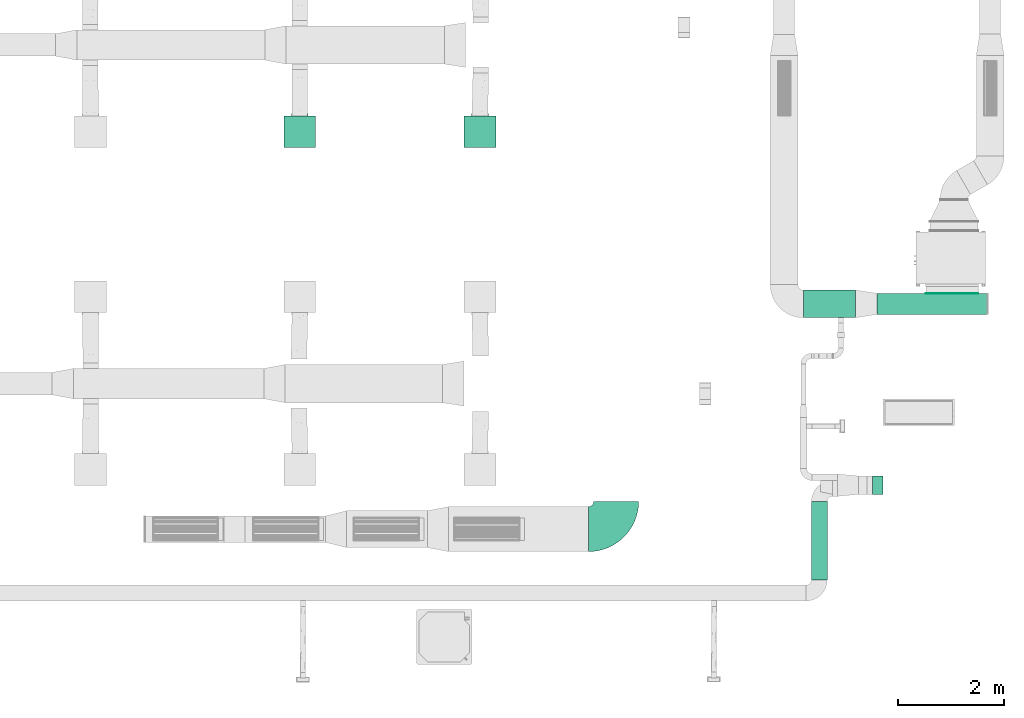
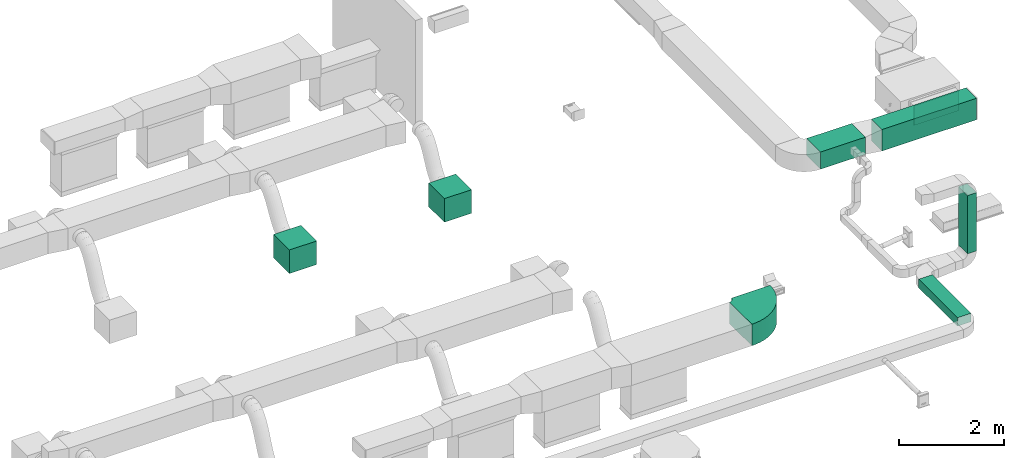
# One storey, part 7 of 60: 4 flow segments, 2 flow fittings, 2 flow terminals.
"""IFC2X3 building model written with IfcOpenShell, lengths in millimetres."""

import ifcopenshell
import ifcopenshell.guid

model = None  # the IFC model being written
_history = None  # IfcOwnerHistory: only IFC2X3 demands one
_inside = {}  # id of a spatial element -> (the spatial element, [elements in it])
_under = {}  # id of a project, library or spatial element -> (it, [spatial elements below it])
_declared = {}  # id of a project -> (the project, [libraries it declares])
_typed = {}  # id of a type object -> (the type object, [elements of that type])
_made_of = {}  # id of a material, layer set ... -> (it, [elements and type objects made of it])


def new_model(schema):
    """Start an empty IFC model of exactly this schema.

    Asked for "IFC4X3", IfcOpenShell would pick the latest addendum, in which some entities
    have other attributes; the version numbers below select the first issue.
    IFC2X3 requires an IfcOwnerHistory on every rooted entity: one is made here for all.
    """
    global model, _history
    if schema == "IFC4X3":
        model = ifcopenshell.file(schema_version=(4, 3, 0, 0))
    else:
        model = ifcopenshell.file(schema=schema)
    _inside.clear()
    _under.clear()
    _declared.clear()
    _typed.clear()
    _made_of.clear()
    _history = None
    if model.schema == "IFC2X3":
        org = make("IfcOrganization", Name="unknown")
        user = make(
            "IfcPersonAndOrganization",
            ThePerson=make("IfcPerson", FamilyName="unknown"),
            TheOrganization=org,
        )
        app = make(
            "IfcApplication",
            ApplicationDeveloper=org,
            Version="unknown",
            ApplicationFullName="unknown",
            ApplicationIdentifier="unknown",
        )
        _history = make(
            "IfcOwnerHistory",
            OwningUser=user,
            OwningApplication=app,
            ChangeAction="ADDED",
            CreationDate=0,
        )
    return model


def make(cls, **values):
    """One entity of the class cls with the attributes given. An attribute that is None is left unset."""
    return model.create_entity(
        cls, **{name: value for name, value in values.items() if value is not None}
    )


def entity(cls, *values):
    """Any entity or typed value of the class cls, its attributes in the order of the schema. None: left unset."""
    e = model.create_entity(cls)
    for i, value in enumerate(values):
        if value is not None:
            e[i] = value
    return e


def rooted(cls, **values):
    """An entity with a GlobalId (a new one), such as an element, a storey or a relation."""
    return make(cls, GlobalId=ifcopenshell.guid.new(), OwnerHistory=_history, **values)


def si_unit(unit_type, name, prefix=None):
    """IfcSIUnit, for example si_unit("LENGTHUNIT", "METRE", prefix="MILLI")."""
    return make("IfcSIUnit", UnitType=unit_type, Prefix=prefix, Name=name)


def converted_unit(unit_type, name, factor, base, dimensions=None, offset=None):
    """IfcConversionBasedUnit, such as the inch: factor (a typed value) times the base unit."""
    return make(
        "IfcConversionBasedUnit"
        if offset is None
        else "IfcConversionBasedUnitWithOffset",
        ConversionOffset=offset,
        Dimensions=None
        if dimensions is None
        else entity("IfcDimensionalExponents", *dimensions),
        UnitType=unit_type,
        Name=name,
        ConversionFactor=make(
            "IfcMeasureWithUnit", ValueComponent=factor, UnitComponent=base
        ),
    )


def derived_unit(unit_type, elements):
    """IfcDerivedUnit: a product of units, each with its exponent."""
    return make(
        "IfcDerivedUnit",
        Elements=[
            make("IfcDerivedUnitElement", Unit=unit, Exponent=power)
            for unit, power in elements
        ],
        UnitType=unit_type,
    )


def assignment(units):
    """IfcUnitAssignment: the units of a project."""
    return None if units is None else make("IfcUnitAssignment", Units=units)


def point(xyz):
    """IfcCartesianPoint."""
    return None if xyz is None else make("IfcCartesianPoint", Coordinates=xyz)


def direction(xyz):
    """IfcDirection."""
    return None if xyz is None else make("IfcDirection", DirectionRatios=xyz)


def frame(location, z_axis=None, x_axis=None):
    """IfcAxis2Placement3D, a coordinate frame: its origin and axes. An axis left out is left unset."""
    return make(
        "IfcAxis2Placement3D",
        Location=point(location),
        Axis=direction(z_axis),
        RefDirection=direction(x_axis),
    )


def frame_2d(location, x_axis=None):
    """IfcAxis2Placement2D, a coordinate frame in the plane: its origin and x axis."""
    return make(
        "IfcAxis2Placement2D", Location=point(location), RefDirection=direction(x_axis)
    )


def origin():
    """The frame at (0, 0, 0) with its axes left unset."""
    return frame((0.0, 0.0, 0.0))


def origin_2d_with_axis():
    """The frame at (0, 0) in the plane with the x axis (1, 0) written out."""
    return frame_2d((0.0, 0.0), x_axis=(1.0, 0.0))


def place(relative_to, where):
    """IfcLocalPlacement: puts the frame where relative to a parent placement (None: the world)."""
    return make(
        "IfcLocalPlacement", PlacementRelTo=relative_to, RelativePlacement=where
    )


def context(
    kind, dimensions, precision=None, world=None, true_north=None, identifier=None
):
    """IfcGeometricRepresentationContext, for example the 3D "Model" context."""
    return make(
        "IfcGeometricRepresentationContext",
        ContextIdentifier=identifier,
        ContextType=kind,
        CoordinateSpaceDimension=dimensions,
        Precision=precision,
        WorldCoordinateSystem=world,
        TrueNorth=true_north,
    )


def subcontext(parent, identifier, kind, view, scale=None):
    """IfcGeometricRepresentationSubContext, for example "Body" below "Model"."""
    return make(
        "IfcGeometricRepresentationSubContext",
        ContextIdentifier=identifier,
        ContextType=kind,
        ParentContext=parent,
        TargetScale=scale,
        TargetView=view,
    )


def project(units=None, contexts=None):
    """IfcProject with its units and contexts."""
    return rooted(
        "IfcProject",
        Name="project",
        RepresentationContexts=contexts,
        UnitsInContext=assignment(units),
    )


def spatial(cls, under=None, at=None, **own):
    """A site, building, storey or space (cls), placed at a placement, below another one or the project."""
    s = rooted(cls, ObjectPlacement=at, **own)
    if under is not None:
        _under.setdefault(under.id(), (under, []))[1].append(s)
    return s


def polyline(points):
    """IfcPolyline through the points."""
    return make("IfcPolyline", Points=[point(p) for p in points])


def circle_curve(where, radius):
    """IfcCircle in the frame where."""
    return make("IfcCircle", Position=where, Radius=radius)


def parameter(value):
    """IfcParameterValue: where a trimmed curve begins or ends, as a parameter of its basis curve."""
    return model.create_entity("IfcParameterValue", value)


def trimmed(basis, trim1, trim2, sense, master):
    """IfcTrimmedCurve: the piece of a basis curve between two trims."""
    return make(
        "IfcTrimmedCurve",
        BasisCurve=basis,
        Trim1=trim1,
        Trim2=trim2,
        SenseAgreement=sense,
        MasterRepresentation=master,
    )


def segment(curve, same_sense, transition):
    """IfcCompositeCurveSegment."""
    return make(
        "IfcCompositeCurveSegment",
        Transition=transition,
        SameSense=same_sense,
        ParentCurve=curve,
    )


def composite_curve(segments, self_intersect=None):
    """IfcCompositeCurve: segments joined end to end."""
    return make("IfcCompositeCurve", Segments=segments, SelfIntersect=self_intersect)


def profile(cls, at=None, kind="AREA", **sizes):
    """A parametric profile (cls). Its sizes go by their IFC names, for example OverallWidth=200.0."""
    return make(cls, ProfileType=kind, Position=at, **sizes)


def rectangle(**sizes):
    """IfcRectangleProfileDef."""
    return profile("IfcRectangleProfileDef", **sizes)


def outline(outer, holes=None, kind="AREA"):
    """IfcArbitraryClosedProfileDef: a profile drawn as a closed curve; with holes, ...WithVoids."""
    if holes is None:
        return make("IfcArbitraryClosedProfileDef", ProfileType=kind, OuterCurve=outer)
    return make(
        "IfcArbitraryProfileDefWithVoids",
        ProfileType=kind,
        OuterCurve=outer,
        InnerCurves=holes,
    )


def extrude(swept, where, along, depth):
    """IfcExtrudedAreaSolid: the profile swept, set in the frame where, extruded along a direction by depth."""
    return make(
        "IfcExtrudedAreaSolid",
        SweptArea=swept,
        Position=where,
        ExtrudedDirection=direction(along),
        Depth=depth,
    )


def faces_of(points, faces, orient=None, outer=None):
    """IfcFace entities. A face is a list of loops; a loop is a list of indices into points, from 0.

    orient and outer hold one flag for each loop. By default every Orientation is true, the
    first loop of a face is its IfcFaceOuterBound and the others are IfcFaceBound.
    """
    made = []
    for i, loops in enumerate(faces):
        bounds = []
        for j, loop in enumerate(loops):
            is_outer = j == 0 if outer is None else outer[i][j]
            bounds.append(
                make(
                    "IfcFaceOuterBound" if is_outer else "IfcFaceBound",
                    Bound=make("IfcPolyLoop", Polygon=[points[k] for k in loop]),
                    Orientation=True if orient is None else orient[i][j],
                )
            )
        made.append(make("IfcFace", Bounds=bounds))
    return made


def face_set(faces, orient=None, outer=None):
    """The faces of one IfcConnectedFaceSet. surface_model builds it on its shared points."""
    return ("IfcConnectedFaceSet", faces, orient, outer)


def surface_model(cls, points, shells):
    """IfcFaceBasedSurfaceModel or IfcShellBasedSurfaceModel (cls): surfaces that need not close."""
    shared = [point(p) for p in points]
    made = [make(c, CfsFaces=faces_of(shared, fs, o, b)) for c, fs, o, b in shells]
    if cls == "IfcFaceBasedSurfaceModel":
        return make(cls, FbsmFaces=made)
    return make(cls, SbsmBoundary=made)


def shape(context_of_items, identifier, shape_type, items):
    """IfcShapeRepresentation: the items that make up one representation, for example the "Body"."""
    return make(
        "IfcShapeRepresentation",
        ContextOfItems=context_of_items,
        RepresentationIdentifier=identifier,
        RepresentationType=shape_type,
        Items=items,
    )


def source(mapping_origin, context_of_items, identifier, shape_type, items):
    """IfcRepresentationMap: a shape defined once, which mapped items show again and again."""
    return make(
        "IfcRepresentationMap",
        MappingOrigin=mapping_origin,
        MappedRepresentation=shape(context_of_items, identifier, shape_type, items),
    )


def transform(
    local_origin,
    x_axis=None,
    y_axis=None,
    z_axis=None,
    scale=None,
    scale2=None,
    scale3=None,
    uniform=True,
):
    """IfcCartesianTransformationOperator3D, or its non-uniform kind. x_axis, y_axis, z_axis: its Axis1, 2, 3."""
    if uniform:
        return make(
            "IfcCartesianTransformationOperator3D",
            Axis1=direction(x_axis),
            Axis2=direction(y_axis),
            LocalOrigin=point(local_origin),
            Scale=scale,
            Axis3=direction(z_axis),
        )
    return make(
        "IfcCartesianTransformationOperator3DnonUniform",
        Axis1=direction(x_axis),
        Axis2=direction(y_axis),
        LocalOrigin=point(local_origin),
        Scale=scale,
        Axis3=direction(z_axis),
        Scale2=scale2,
        Scale3=scale3,
    )


def mapped(mapping_source, mapping_target):
    """IfcMappedItem: shows the shape of a source again, moved by a transform."""
    return make(
        "IfcMappedItem", MappingSource=mapping_source, MappingTarget=mapping_target
    )


def material(Name=None, Category=None):
    """IfcMaterial."""
    return make("IfcMaterial", Name=Name, Category=Category)


def made_of(thing, what):
    """Note that an element or type object is made of a material, layer set ...; save() writes the relation."""
    if what is not None:
        _made_of.setdefault(what.id(), (what, []))[1].append(thing)
    return thing


def type_object(cls, material=None, **own):
    """A type object (cls), such as IfcWallType, which elements share."""
    return made_of(rooted(cls, **own), material)


def type_shapes(of_type, sources):
    """Give a type object the sources (RepresentationMaps) that its elements show as mapped items."""
    of_type.RepresentationMaps = sources


def element(
    cls,
    number,
    at=None,
    inside=None,
    cuts=None,
    type_object=None,
    material=None,
    context=None,
    identifier="Body",
    shape_type=None,
    held_by="IfcProductDefinitionShape",
    body=None,
    shapes=None,
    **own,
):
    """One element of the class cls, such as IfcWall. Its Tag is "e" and its number.

    at: its placement. inside: the storey or other place that contains it. cuts: it is an
    opening in that element (IfcRelVoidsElement). A single representation is given by context,
    identifier, shape_type and body (its items); several are given by shapes. held_by: the class
    of the entity that holds the representations. save() writes the other relations.
    """
    e = rooted(cls, Tag="e%d" % number, ObjectPlacement=at, **own)
    if body is not None:
        shapes = [shape(context, identifier, shape_type, body)]
    if shapes is not None:
        e.Representation = make(held_by, Representations=shapes)
    if inside is not None:
        _inside.setdefault(inside.id(), (inside, []))[1].append(e)
    if cuts is not None:
        rooted(
            "IfcRelVoidsElement", RelatingBuildingElement=cuts, RelatedOpeningElement=e
        )
    if type_object is not None:
        _typed.setdefault(type_object.id(), (type_object, []))[1].append(e)
    return made_of(e, material)


def aggregate(whole, parts):
    """IfcRelAggregates: a whole, such as a stair, and the parts it consists of."""
    return rooted("IfcRelAggregates", RelatingObject=whole, RelatedObjects=parts)


def save(model, path):
    """Write the relations noted so far, then the file.

    IfcRelAggregates (storeys below a building ...), IfcRelContainedInSpatialStructure (elements
    in a storey), IfcRelDefinesByType, IfcRelAssociatesMaterial and IfcRelDeclares: one each for
    every whole, place, type object, material and project.
    """
    for whole, parts in _under.values():
        aggregate(whole, parts)
    for where, things in _inside.values():
        rooted(
            "IfcRelContainedInSpatialStructure",
            RelatedElements=things,
            RelatingStructure=where,
        )
    for kind, things in _typed.values():
        rooted("IfcRelDefinesByType", RelatedObjects=things, RelatingType=kind)
    for what, things in _made_of.values():
        rooted("IfcRelAssociatesMaterial", RelatedObjects=things, RelatingMaterial=what)
    for by, libraries in _declared.values():
        rooted("IfcRelDeclares", RelatingContext=by, RelatedDefinitions=libraries)
    model.write(path)


model = new_model("IFC2X3")

# Units and contexts
model_context = context("Model", 3, precision=0.01, world=origin(), true_north=direction((6.123233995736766e-17, 1.0)))
body_context = subcontext(model_context, "Body", "Model", "MODEL_VIEW")
ifc_project = project(units=[si_unit("LENGTHUNIT", "METRE", prefix="MILLI"), converted_unit("PLANEANGLEUNIT", "DEGREE", entity("IfcPlaneAngleMeasure", 0.017453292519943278), si_unit("PLANEANGLEUNIT", "RADIAN"), dimensions=[0, 0, 0, 0, 0, 0, 0]), si_unit("AREAUNIT", "SQUARE_METRE"), derived_unit("THERMALTRANSMITTANCEUNIT", [(si_unit("MASSUNIT", "GRAM", prefix="KILO"), 1), (si_unit("THERMODYNAMICTEMPERATUREUNIT", "KELVIN"), -1), (si_unit("TIMEUNIT", "SECOND"), -3)])], contexts=[model_context])

# Site, building, storey
site_placement = place(None, origin())
site = spatial("IfcSite", under=ifc_project, at=site_placement, Name="Default", CompositionType="ELEMENT")
building_placement = place(site_placement, origin())
building = spatial("IfcBuilding", under=site, at=building_placement, Name="Praça Pedro II, 1301 - Centro (Sul), Teresina - PI, 64001-100", CompositionType="ELEMENT")
storey_placement = place(building_placement, frame((0.0, 0.0, 6040.0)))
storey = spatial("IfcBuildingStorey", under=building, at=storey_placement, Name="2PAV", CompositionType="ELEMENT", Elevation=6040.0)

# Flow terminals
ifc_material = material(Name="<Unnamed>")
air_terminal_type = type_object("IfcAirTerminalType", Name="VD-HM 600:VD-HM 600", PredefinedType="NOTDEFINED", material=ifc_material)
shared_shape_1 = source(origin(), body_context, "Body", "SurfaceModel", [
    surface_model("IfcFaceBasedSurfaceModel", [(280.24999051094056, 280.0000057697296, -0.099993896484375), (-279.75000286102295, 280.0000057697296, -0.099993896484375), (-279.75000286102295, -280.0000057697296, -0.099993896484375), (280.24999051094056, -280.0000057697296, -0.099993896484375), (-300.75001101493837, 0.0, 510.50001697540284), (-300.75001101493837, -30.726726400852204, 507.4736755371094), (-300.75001101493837, 0.0, 353.0000012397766), (-300.75001101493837, -60.27264279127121, 498.51103219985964), (-300.75001101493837, -87.50230793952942, 483.9564700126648), (-300.75001101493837, -111.3693195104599, 464.3693298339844), (-300.75001101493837, -130.95645968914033, 440.5023273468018), (-300.75001101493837, -145.51102187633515, 413.272630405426), (-300.75001101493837, -154.47367429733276, 383.7267230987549), (-300.75001101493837, -157.4999975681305, 353.0000012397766), (-300.75001101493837, -154.47367429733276, 322.27327938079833), (-300.75001101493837, -145.51102187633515, 292.7273539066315), (-300.75001101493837, -130.95645968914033, 265.4976933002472), (-300.75001101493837, -111.3693195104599, 241.63069081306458), (-300.75001101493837, -87.50230793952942, 222.04353246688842), (-300.75001101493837, -60.27264279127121, 207.4889702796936), (-300.75001101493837, -30.726726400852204, 198.52632694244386), (-300.75001101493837, 0.0, 195.5000036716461), (-300.75001101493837, 30.726726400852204, 198.52632694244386), (-300.75001101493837, 60.27264279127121, 207.4889702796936), (-300.75001101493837, 87.50230793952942, 222.04353246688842), (-300.75001101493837, 111.3693195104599, 241.63069081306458), (-300.75001101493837, 130.95645968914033, 265.4976933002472), (-300.75001101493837, 145.51102187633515, 292.7273539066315), (-300.75001101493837, 154.47367429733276, 322.27327938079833), (-300.75001101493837, 157.4999975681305, 353.0000012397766), (-300.75001101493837, 154.47367429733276, 383.7267230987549), (-300.75001101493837, 145.51102187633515, 413.272630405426), (-300.75001101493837, 130.95645968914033, 440.5023273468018), (-300.75001101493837, 111.3693195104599, 464.3693298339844), (-300.75001101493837, 87.50230793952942, 483.9564700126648), (-300.75001101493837, 60.27264279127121, 498.51103219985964), (-300.75001101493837, 30.726726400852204, 507.4736755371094), (300.24998703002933, 300.0000022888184, 550.000004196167), (300.24998703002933, 300.0000022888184, 0.0), (-299.7499993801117, 300.0000022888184, 0.0), (-299.7499993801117, 300.0000022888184, 550.000004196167), (300.24998703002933, -300.0000022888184, 550.000004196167), (300.24998703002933, -300.0000022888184, 0.0), (-299.7499993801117, -300.0000022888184, 550.000004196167), (-299.7499993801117, -300.0000022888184, 0.0), (280.24999051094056, 280.0000057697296, -0.099993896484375), (10.250000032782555, 280.0000057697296, -0.099993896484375), (10.250000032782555, 256.6173123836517, -13.600005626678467), (280.24999051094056, 256.6173123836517, -13.600005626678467), (280.24999051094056, 253.0, -0.099993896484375), (10.250000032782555, 253.0, -0.099993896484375), (10.250000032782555, 229.61732525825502, -13.600005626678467), (280.24999051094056, 229.61732525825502, -13.600005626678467), (280.24999051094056, 225.99999518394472, -0.099993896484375), (10.250000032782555, 225.99999518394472, -0.099993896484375), (10.250000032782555, 202.61731996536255, -13.600005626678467), (280.24999051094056, 202.61731996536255, -13.600005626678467), (280.24999051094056, 199.000008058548, -0.099993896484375), (10.250000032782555, 199.000008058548, -0.099993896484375), (10.250000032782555, 175.6173146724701, -13.600005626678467), (280.24999051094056, 175.6173146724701, -13.600005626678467), (280.24999051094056, 172.00000276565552, -0.099993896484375), (10.250000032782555, 172.00000276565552, -0.099993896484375), (10.250000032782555, 148.61731846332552, -13.600005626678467), (280.24999051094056, 148.61731846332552, -13.600005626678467), (280.24999051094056, 144.99999747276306, -0.099993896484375), (10.250000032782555, 144.99999747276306, -0.099993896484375), (10.250000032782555, 121.61731317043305, -13.600005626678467), (280.24999051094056, 121.61731317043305, -13.600005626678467), (280.24999051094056, 118.00000126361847, -0.099993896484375), (10.250000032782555, 118.00000126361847, -0.099993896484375), (280.24999051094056, 94.61731696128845, -13.600005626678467), (10.250000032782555, 94.61731696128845, -13.600005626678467), (280.24999051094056, 90.99999597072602, -0.099993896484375), (10.250000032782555, 90.99999597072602, -0.099993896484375), (280.24999051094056, 67.61731621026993, -13.600005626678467), (10.250000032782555, 67.61731621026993, -13.600005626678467), (280.24999051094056, 63.99999976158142, -0.099993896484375), (10.250000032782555, 63.99999976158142, -0.099993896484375), (10.250000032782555, 40.61731545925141, -13.600005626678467), (280.24999051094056, 40.61731545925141, -13.600005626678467), (280.24999051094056, 36.999999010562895, -0.099993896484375), (10.250000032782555, 36.999999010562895, -0.099993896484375), (10.250000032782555, 13.617316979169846, -13.600005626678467), (280.24999051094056, 13.617316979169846, -13.600005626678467), (-9.74999989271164, -256.6173123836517, -13.600005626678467), (-279.75000286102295, -256.6173123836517, -13.600005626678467), (-279.75000286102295, -280.0000057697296, -0.099993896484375), (-9.74999989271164, -280.0000057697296, -0.099993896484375), (-9.74999989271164, -229.61732525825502, -13.600005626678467), (-279.75000286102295, -229.61732525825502, -13.600005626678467), (-279.75000286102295, -253.0, -0.099993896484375), (-9.74999989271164, -253.0, -0.099993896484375), (-9.74999989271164, -202.61731996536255, -13.600005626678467), (-279.75000286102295, -202.61731996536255, -13.600005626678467), (-279.75000286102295, -225.99999518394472, -0.099993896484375), (-9.74999989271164, -225.99999518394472, -0.099993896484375), (-9.74999989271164, -175.6173146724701, -13.600005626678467), (-279.75000286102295, -175.6173146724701, -13.600005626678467), (-279.75000286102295, -199.000008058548, -0.099993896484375), (-9.74999989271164, -199.000008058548, -0.099993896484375), (-9.74999989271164, -148.61731846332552, -13.600005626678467), (-279.75000286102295, -148.61731846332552, -13.600005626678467), (-279.75000286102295, -172.00000276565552, -0.099993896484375), (-9.74999989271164, -172.00000276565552, -0.099993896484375), (-9.74999989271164, -121.61731317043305, -13.600005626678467), (-279.75000286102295, -121.61731317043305, -13.600005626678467), (-279.75000286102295, -144.99999747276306, -0.099993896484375), (-9.74999989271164, -144.99999747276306, -0.099993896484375), (-9.74999989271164, -94.61731696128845, -13.600005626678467), (-279.75000286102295, -94.61731696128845, -13.600005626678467), (-279.75000286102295, -118.00000126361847, -0.099993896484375), (-9.74999989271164, -118.00000126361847, -0.099993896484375), (-9.74999989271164, -67.61731621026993, -13.600005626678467), (-279.75000286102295, -67.61731621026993, -13.600005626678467), (-279.75000286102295, -90.99999597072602, -0.099993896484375), (-9.74999989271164, -90.99999597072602, -0.099993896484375), (-9.74999989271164, -40.61731545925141, -13.600005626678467), (-279.75000286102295, -40.61731545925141, -13.600005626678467), (-279.75000286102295, -63.99999976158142, -0.099993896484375), (-9.74999989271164, -63.99999976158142, -0.099993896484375), (-9.74999989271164, -13.617316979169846, -13.600005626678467), (-279.75000286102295, -13.617316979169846, -13.600005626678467), (-279.75000286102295, -36.999999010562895, -0.099993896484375), (-9.74999989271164, -36.999999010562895, -0.099993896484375), (280.24999051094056, -10.000000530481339, -0.099993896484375), (256.100465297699, -10.000000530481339, -12.174765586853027), (256.100465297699, -280.0000057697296, -12.174765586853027), (280.24999051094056, -280.0000057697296, -0.099993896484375), (253.25000338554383, -10.000000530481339, -0.099993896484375), (229.10046000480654, -10.000000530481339, -12.174765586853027), (229.10046000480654, -280.0000057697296, -12.174765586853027), (253.25000338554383, -280.0000057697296, -0.099993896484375), (226.24999809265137, -10.000000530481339, -0.099993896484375), (202.10045471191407, -10.000000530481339, -12.174765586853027), (202.10045471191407, -280.0000057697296, -12.174765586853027), (226.24999809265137, -280.0000057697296, -0.099993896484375), (199.24999279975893, -10.000000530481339, -0.099993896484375), (175.10046758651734, -10.000000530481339, -12.174765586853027), (175.10046758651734, -280.0000057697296, -12.174765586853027), (199.24999279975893, -280.0000057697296, -0.099993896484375), (172.24998750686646, -10.000000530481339, -0.099993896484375), (148.10046229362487, -10.000000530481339, -12.174765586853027), (148.10046229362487, -280.0000057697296, -12.174765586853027), (172.24998750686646, -280.0000057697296, -0.099993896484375), (145.25000038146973, -10.000000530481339, -0.099993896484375), (121.10046608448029, -10.000000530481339, -12.174765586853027), (121.10046608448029, -280.0000057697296, -12.174765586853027), (145.25000038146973, -280.0000057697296, -0.099993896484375), (118.24999508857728, -10.000000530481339, -0.099993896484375), (94.10046079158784, -10.000000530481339, -12.174765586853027), (94.10046079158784, -280.0000057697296, -12.174765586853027), (118.24999508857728, -280.0000057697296, -0.099993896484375), (91.24999887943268, -10.000000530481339, -0.099993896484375), (67.10046912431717, -10.000000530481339, -12.174765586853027), (67.10046912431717, -280.0000057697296, -12.174765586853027), (91.24999887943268, -280.0000057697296, -0.099993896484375), (64.24999812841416, -10.000000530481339, -0.099993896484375), (40.100468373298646, -10.000000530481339, -12.174765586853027), (40.100468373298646, -280.0000057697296, -12.174765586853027), (64.24999812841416, -280.0000057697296, -0.099993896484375), (37.250001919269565, -10.000000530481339, -0.099993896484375), (13.100466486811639, -10.000000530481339, -12.174765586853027), (13.100466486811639, -280.0000057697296, -12.174765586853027), (37.250001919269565, -280.0000057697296, -0.099993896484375), (-279.75000286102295, 10.000000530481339, -0.099993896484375), (-255.6004776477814, 10.000000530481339, -12.174765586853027), (-255.6004776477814, 280.0000057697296, -12.174765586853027), (-279.75000286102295, 280.0000057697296, -0.099993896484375), (-252.7499975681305, 10.000000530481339, -0.099993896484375), (-228.60047235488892, 10.000000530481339, -12.174765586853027), (-228.60047235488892, 280.0000057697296, -12.174765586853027), (-252.7499975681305, 280.0000057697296, -0.099993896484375), (-225.75001044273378, 10.000000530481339, -0.099993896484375), (-201.60046706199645, 10.000000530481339, -12.174765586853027), (-201.60046706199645, 280.0000057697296, -12.174765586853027), (-225.75001044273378, 280.0000057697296, -0.099993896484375), (-198.75000514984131, 10.000000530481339, -0.099993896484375), (-174.60046176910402, 10.000000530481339, -12.174765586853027), (-174.60046176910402, 280.0000057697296, -12.174765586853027), (-198.75000514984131, 280.0000057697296, -0.099993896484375), (-171.74999985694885, 10.000000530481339, -0.099993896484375), (-147.60046555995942, 10.000000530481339, -12.174765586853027), (-147.60046555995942, 280.0000057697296, -12.174765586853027), (-171.74999985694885, 280.0000057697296, -0.099993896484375), (-144.75000364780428, 10.000000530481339, -0.099993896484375), (-120.60046935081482, 10.000000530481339, -12.174765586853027), (-120.60046935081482, 280.0000057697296, -12.174765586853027), (-144.75000364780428, 280.0000057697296, -0.099993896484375), (-117.75000743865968, 10.000000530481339, -0.099993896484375), (-93.60046405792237, 10.000000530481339, -12.174765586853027), (-93.60046405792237, 280.0000057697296, -12.174765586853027), (-117.75000743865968, 280.0000057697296, -0.099993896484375), (-90.75000214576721, 10.000000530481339, -0.099993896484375), (-66.60046330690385, 10.000000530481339, -12.174765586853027), (-66.60046330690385, 280.0000057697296, -12.174765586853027), (-90.75000214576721, 280.0000057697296, -0.099993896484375), (-63.75000139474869, 10.000000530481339, -0.099993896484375), (-39.60046709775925, 10.000000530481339, -12.174765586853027), (-39.60046709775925, 280.0000057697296, -12.174765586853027), (-63.75000139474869, 280.0000057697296, -0.099993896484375), (-36.75000064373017, 10.000000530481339, -0.099993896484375), (-12.600466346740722, 10.000000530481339, -12.174765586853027), (-12.600466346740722, 280.0000057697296, -12.174765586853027), (-36.75000064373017, 280.0000057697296, -0.099993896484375), (-299.7499993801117, 0.0, 510.50001697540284), (-299.7499993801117, 30.726726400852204, 507.4736755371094), (-347.74999465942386, 30.726726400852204, 507.4736755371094), (-347.74999465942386, 0.0, 510.50001697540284), (-299.7499993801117, 60.27264279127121, 498.51103219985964), (-347.74999465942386, 60.27264279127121, 498.51103219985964), (-299.7499993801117, 87.50230793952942, 483.9564700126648), (-347.74999465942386, 87.50230793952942, 483.9564700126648), (-299.7499993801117, 111.3693195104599, 464.3693298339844), (-347.74999465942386, 111.3693195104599, 464.3693298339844), (-299.7499993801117, 130.95645968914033, 440.5023273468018), (-347.74999465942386, 130.95645968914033, 440.5023273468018), (-299.7499993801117, 145.51102187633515, 413.272630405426), (-347.74999465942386, 145.51102187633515, 413.272630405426), (-299.7499993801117, 154.47367429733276, 383.7267230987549), (-347.74999465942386, 154.47367429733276, 383.7267230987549), (-299.7499993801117, 157.4999975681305, 353.0000012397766), (-347.74999465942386, 157.4999975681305, 353.0000012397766), (-299.7499993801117, 154.47367429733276, 322.27327938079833), (-347.74999465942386, 154.47367429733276, 322.27327938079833), (-299.7499993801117, 145.51102187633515, 292.7273539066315), (-347.74999465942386, 145.51102187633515, 292.7273539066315), (-299.7499993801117, 130.95645968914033, 265.4976933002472), (-347.74999465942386, 130.95645968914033, 265.4976933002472), (-299.7499993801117, 111.3693195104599, 241.63069081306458), (-347.74999465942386, 111.3693195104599, 241.63069081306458), (-299.7499993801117, 87.50230793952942, 222.04353246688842), (-347.74999465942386, 87.50230793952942, 222.04353246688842), (-299.7499993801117, 60.27264279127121, 207.4889702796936), (-347.74999465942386, 60.27264279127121, 207.4889702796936), (-299.7499993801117, 30.726726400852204, 198.52632694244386), (-347.74999465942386, 30.726726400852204, 198.52632694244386), (-299.7499993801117, 0.0, 195.5000036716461), (-347.74999465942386, 0.0, 195.5000036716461), (-299.7499993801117, -30.726726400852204, 198.52632694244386), (-347.74999465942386, -30.726726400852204, 198.52632694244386), (-299.7499993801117, -60.27264279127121, 207.4889702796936), (-347.74999465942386, -60.27264279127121, 207.4889702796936), (-299.7499993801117, -87.50230793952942, 222.04353246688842), (-347.74999465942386, -87.50230793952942, 222.04353246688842), (-299.7499993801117, -111.3693195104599, 241.63069081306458), (-347.74999465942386, -111.3693195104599, 241.63069081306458), (-299.7499993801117, -130.95645968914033, 265.4976933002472), (-347.74999465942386, -130.95645968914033, 265.4976933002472), (-299.7499993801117, -145.51102187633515, 292.7273539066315), (-347.74999465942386, -145.51102187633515, 292.7273539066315), (-299.7499993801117, -154.47367429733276, 322.27327938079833), (-347.74999465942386, -154.47367429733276, 322.27327938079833), (-299.7499993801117, -157.4999975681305, 353.0000012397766), (-347.74999465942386, -157.4999975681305, 353.0000012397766), (-299.7499993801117, -154.47367429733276, 383.7267230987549), (-347.74999465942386, -154.47367429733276, 383.7267230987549), (-299.7499993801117, -145.51102187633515, 413.272630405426), (-347.74999465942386, -145.51102187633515, 413.272630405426), (-299.7499993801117, -130.95645968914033, 440.5023273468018), (-347.74999465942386, -130.95645968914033, 440.5023273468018), (-299.7499993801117, -111.3693195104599, 464.3693298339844), (-347.74999465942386, -111.3693195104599, 464.3693298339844), (-299.7499993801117, -87.50230793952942, 483.9564700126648), (-347.74999465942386, -87.50230793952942, 483.9564700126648), (-299.7499993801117, -60.27264279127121, 498.51103219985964), (-347.74999465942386, -60.27264279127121, 498.51103219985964), (-299.7499993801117, -30.726726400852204, 507.4736755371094), (-347.74999465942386, -30.726726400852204, 507.4736755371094), (-279.75000286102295, 10.000000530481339, -0.20000596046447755), (-279.75000286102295, -10.000000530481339, -0.20000596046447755), (280.24999051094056, -10.000000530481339, -0.20000596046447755), (280.24999051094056, 10.000000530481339, -0.20000596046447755), (10.250000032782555, 280.0000057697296, -0.20000596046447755), (-9.74999989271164, 280.0000057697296, -0.20000596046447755), (-9.74999989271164, -280.0000057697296, -0.20000596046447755), (10.250000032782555, -280.0000057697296, -0.20000596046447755)], [face_set([[[0, 1, 2]], [[0, 2, 3]], [[4, 5, 6]], [[5, 7, 6]], [[7, 8, 6]], [[8, 9, 6]], [[9, 10, 6]], [[10, 11, 6]], [[11, 12, 6]], [[12, 13, 6]], [[13, 14, 6]], [[14, 15, 6]], [[15, 16, 6]], [[16, 17, 6]], [[17, 18, 6]], [[18, 19, 6]], [[19, 20, 6]], [[20, 21, 6]], [[21, 22, 6]], [[22, 23, 6]], [[23, 24, 6]], [[24, 25, 6]], [[25, 26, 6]], [[26, 27, 6]], [[27, 28, 6]], [[28, 29, 6]], [[29, 30, 6]], [[30, 31, 6]], [[31, 32, 6]], [[32, 33, 6]], [[33, 34, 6]], [[34, 35, 6]], [[35, 36, 6]], [[36, 4, 6]]]), face_set([[[37, 38, 39]], [[37, 39, 40]], [[41, 42, 38]], [[41, 38, 37]], [[43, 44, 42]], [[43, 42, 41]], [[40, 39, 44]], [[40, 44, 43]], [[43, 41, 37]], [[43, 37, 40]], [[44, 42, 38]], [[44, 38, 39]], [[45, 46, 47]], [[45, 47, 48]], [[49, 50, 51]], [[49, 51, 52]], [[53, 54, 55]], [[53, 55, 56]], [[57, 58, 59]], [[57, 59, 60]], [[61, 62, 63]], [[61, 63, 64]], [[65, 66, 67]], [[65, 67, 68]], [[69, 70, 71]], [[70, 72, 71]], [[73, 74, 75]], [[74, 76, 75]], [[77, 78, 79]], [[77, 79, 80]], [[81, 82, 83]], [[81, 83, 84]], [[85, 86, 87]], [[85, 87, 88]], [[89, 90, 91]], [[89, 91, 92]], [[93, 94, 95]], [[93, 95, 96]], [[97, 98, 99]], [[97, 99, 100]], [[101, 102, 103]], [[101, 103, 104]], [[105, 106, 107]], [[105, 107, 108]], [[109, 110, 111]], [[109, 111, 112]], [[113, 114, 115]], [[113, 115, 116]], [[117, 118, 119]], [[117, 119, 120]], [[121, 122, 123]], [[121, 123, 124]], [[125, 126, 127]], [[125, 127, 128]], [[129, 130, 131]], [[129, 131, 132]], [[133, 134, 135]], [[133, 135, 136]], [[137, 138, 139]], [[137, 139, 140]], [[141, 142, 143]], [[141, 143, 144]], [[145, 146, 147]], [[145, 147, 148]], [[149, 150, 151]], [[149, 151, 152]], [[153, 154, 155]], [[153, 155, 156]], [[157, 158, 159]], [[157, 159, 160]], [[161, 162, 163]], [[161, 163, 164]], [[165, 166, 167]], [[165, 167, 168]], [[169, 170, 171]], [[169, 171, 172]], [[173, 174, 175]], [[173, 175, 176]], [[177, 178, 179]], [[177, 179, 180]], [[181, 182, 183]], [[181, 183, 184]], [[185, 186, 187]], [[185, 187, 188]], [[189, 190, 191]], [[189, 191, 192]], [[193, 194, 195]], [[193, 195, 196]], [[197, 198, 199]], [[197, 199, 200]], [[201, 202, 203]], [[201, 203, 204]], [[205, 206, 207]], [[205, 207, 208]], [[206, 209, 210]], [[206, 210, 207]], [[209, 211, 212]], [[209, 212, 210]], [[211, 213, 214]], [[211, 214, 212]], [[213, 215, 216]], [[213, 216, 214]], [[215, 217, 218]], [[215, 218, 216]], [[217, 219, 220]], [[217, 220, 218]], [[219, 221, 222]], [[219, 222, 220]], [[221, 223, 224]], [[221, 224, 222]], [[223, 225, 226]], [[223, 226, 224]], [[225, 227, 228]], [[225, 228, 226]], [[227, 229, 230]], [[227, 230, 228]], [[229, 231, 232]], [[229, 232, 230]], [[231, 233, 234]], [[231, 234, 232]], [[233, 235, 236]], [[233, 236, 234]], [[235, 237, 238]], [[235, 238, 236]], [[237, 239, 240]], [[237, 240, 238]], [[239, 241, 242]], [[239, 242, 240]], [[241, 243, 244]], [[241, 244, 242]], [[243, 245, 246]], [[243, 246, 244]], [[245, 247, 248]], [[245, 248, 246]], [[247, 249, 250]], [[247, 250, 248]], [[249, 251, 252]], [[249, 252, 250]], [[251, 253, 254]], [[251, 254, 252]], [[253, 255, 256]], [[253, 256, 254]], [[255, 257, 258]], [[255, 258, 256]], [[257, 259, 260]], [[257, 260, 258]], [[259, 261, 262]], [[259, 262, 260]], [[261, 263, 264]], [[261, 264, 262]], [[263, 265, 266]], [[263, 266, 264]], [[265, 267, 268]], [[265, 268, 266]], [[267, 205, 208]], [[267, 208, 268]]]), face_set([[[269, 270, 271]], [[269, 271, 272]], [[273, 274, 275]], [[273, 275, 276]]])]),
])
type_shapes(air_terminal_type, [shared_shape_1])
for number, where, z_axis, x_axis in (
    (1, (26512.657700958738, -59889.65897434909, 2310.0), (0.0, 0.0, 1.0), (0.0, -1.0, 0.0)),
    (2, (29923.32600857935, -59889.65897434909, 2310.0), (0.0, 0.0, 1.0), (0.0, -1.0, 0.0)),
):
    element("IfcFlowTerminal", number, at=place(storey_placement, frame(where, z_axis=z_axis, x_axis=x_axis)), inside=storey, type_object=air_terminal_type, material=ifc_material, Name="VD-HM 600:VD-HM 600", ObjectType="VD-HM 600:VD-HM 600", context=body_context, shape_type="MappedRepresentation", body=[
        mapped(shared_shape_1, transform((0.0, 0.0, 0.0), scale=1.0)),
    ])

# Flow segments
duct_segment_type = type_object("IfcDuctSegmentType", Name="Duto retangular:Raios cotovelos / torneiras", PredefinedType="NOTDEFINED")
flow_segment_1_placement = place(storey_placement, origin())
element("IfcFlowSegment", 3, at=flow_segment_1_placement, inside=storey, type_object=duct_segment_type, Name="Duto retangular:Raios cotovelos / torneiras", ObjectType="Duto retangular:Raios cotovelos / torneiras", context=body_context, shape_type="SweptSolid", body=[
    extrude(rectangle(XDim=2080.000000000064, YDim=399.9999999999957, at=frame_2d((-4.320099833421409e-12, 8.668621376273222e-12), x_axis=(1.0, 0.0))), frame((38473.621071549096, -63148.27549998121, 3150.0)), (0.0, 0.0, 1.0), 499.999999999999),
])
flow_segment_2_placement = place(storey_placement, origin())
element("IfcFlowSegment", 4, at=flow_segment_2_placement, inside=storey, type_object=duct_segment_type, Name="Duto retangular:Raios cotovelos / torneiras", ObjectType="Duto retangular:Raios cotovelos / torneiras", context=body_context, shape_type="SweptSolid", body=[
    extrude(rectangle(XDim=992.5000000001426, YDim=525.0000000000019, at=frame_2d((2.1884716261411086e-12, 0.0), x_axis=(1.0, 0.0))), frame((36537.37107154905, -63148.27549998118, 3250.0)), (0.0, 0.0, 1.0), 400.0),
])
flow_segment_3_placement = place(storey_placement, origin())
element("IfcFlowSegment", 5, at=flow_segment_3_placement, inside=storey, type_object=duct_segment_type, Name="Duto retangular:Raios cotovelos / torneiras", ObjectType="Duto retangular:Raios cotovelos / torneiras", context=body_context, shape_type="SweptSolid", body=[
    extrude(rectangle(XDim=1478.7831266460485, YDim=300.0000000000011, at=frame_2d((8.640199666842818e-12, 0.0), x_axis=(1.0, 0.0))), frame((36345.36892569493, -67630.85262942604, 2550.0), z_axis=(0.0, 0.0, 1.0), x_axis=(0.0, 1.0, 0.0)), (0.0, 0.0, 1.0), 200.0),
])
flow_segment_4_placement = place(storey_placement, origin())
element("IfcFlowSegment", 6, at=flow_segment_4_placement, inside=storey, type_object=duct_segment_type, Name="Duto retangular:Raios cotovelos / torneiras", ObjectType="Duto retangular:Raios cotovelos / torneiras", context=body_context, shape_type="SweptSolid", body=[
    extrude(rectangle(XDim=199.99999999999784, YDim=350.00000000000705, at=origin_2d_with_axis()), frame((37448.62107154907, -66578.96106610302, 2850.0), z_axis=(0.0, 0.0, 1.0), x_axis=(-1.0, 0.0, 0.0)), (0.0, 0.0, 1.0), 1359.0000000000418),
])

# Flow fittings
duct_fitting_type_1 = type_object("IfcDuctFittingType", Name="BTS vanes:1 Splitter Vanes", PredefinedType="NOTDEFINED", material=ifc_material)
shared_shape_2 = source(origin(), body_context, "Body", "SweptSolid", [
    extrude(outline(composite_curve([segment(polyline([(-687.5, -262.4999999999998), (162.50000000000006, -262.4999999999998)]), True, "CONTINUOUS"), segment(trimmed(circle_curve(frame_2d((262.5, -262.4999999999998), x_axis=(0.0, 1.0)), 99.99999999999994), [parameter(0.0)], [parameter(90.00000000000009)], True, "PARAMETER"), False, "CONTINUOUS"), segment(polyline([(262.5, -162.4999999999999), (262.5, 687.5000000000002)]), True, "CONTINUOUS"), segment(trimmed(circle_curve(frame_2d((262.5, -262.4999999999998), x_axis=(0.0, 1.0)), 950.0000000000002), [parameter(0.0)], [parameter(90.00000000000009)], True, "PARAMETER"), True, "CONTINUOUS")], self_intersect=False)), frame((-262.49999999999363, 262.4999999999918, -250.0), z_axis=(0.0, 0.0, 1.0), x_axis=(-1.0, 0.0, 0.0)), (0.0, 0.0, 1.0), 500.00000000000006),
    extrude(outline(composite_curve([segment(polyline([(-77.63157894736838, -59.21052631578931), (-40.78947368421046, -59.21052631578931)]), True, "CONTINUOUS"), segment(trimmed(circle_curve(frame_2d((59.21052631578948, -59.21052631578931), x_axis=(0.0, 1.0)), 100.0), [parameter(0.0)], [parameter(90.00000000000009)], True, "PARAMETER"), False, "CONTINUOUS"), segment(polyline([(59.21052631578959, 40.789473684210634), (59.21052631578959, 77.63157894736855)]), True, "CONTINUOUS"), segment(trimmed(circle_curve(frame_2d((59.21052631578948, -59.21052631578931), x_axis=(0.0, 1.0)), 136.84210526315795), [parameter(0.0)], [parameter(90.00000000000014)], True, "PARAMETER"), True, "CONTINUOUS")], self_intersect=False)), frame((-465.78947368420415, 465.7894736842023, -250.0), z_axis=(0.0, 0.0, 1.0), x_axis=(-1.0, 0.0, 0.0)), (0.0, 0.0, 1.0), 500.00000000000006),
])
type_shapes(duct_fitting_type_1, [shared_shape_2])
flow_fitting_1_placement = place(storey_placement, frame((32501.321071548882, -67411.94163590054, 3500.0)))
element("IfcFlowFitting", 7, at=flow_fitting_1_placement, inside=storey, type_object=duct_fitting_type_1, material=ifc_material, Name="BTS vanes:1 Splitter Vanes", ObjectType="BTS vanes:1 Splitter Vanes", context=body_context, shape_type="MappedRepresentation", body=[
    mapped(shared_shape_2, transform((0.0, 0.0, 0.0), scale=1.0)),
])
duct_fitting_type_2 = type_object("IfcDuctFittingType", Name="M_Rectangular Tap - Beveled:Standard", PredefinedType="NOTDEFINED", material=ifc_material)
shared_shape_3 = source(origin(), body_context, "Body", "SweptSolid", [
    extrude(outline(polyline([(-3.0384000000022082, -594.4), (4.057600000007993, -594.4), (4.057600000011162, 396.6000000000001), (-2.038400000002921, 396.6000000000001), (-3.038400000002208, 395.5999999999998), (-3.0384000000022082, -594.4)])), frame((-2.0383999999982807, -99.40000000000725, -228.0), z_axis=(0.0, 0.0, 1.0), x_axis=(-1.0, 0.0, 0.0)), (0.0, 0.0, 1.0), 456.0),
])
type_shapes(duct_fitting_type_2, [shared_shape_3])
flow_fitting_2_placement = place(storey_placement, frame((38857.871175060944, -62948.2754999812, 3407.0), z_axis=(0.0, 0.0, -1.0), x_axis=(0.0, 1.0, 0.0)))
element("IfcFlowFitting", 8, at=flow_fitting_2_placement, inside=storey, type_object=duct_fitting_type_2, material=ifc_material, Name="M_Rectangular Tap - Beveled:Standard", ObjectType="M_Rectangular Tap - Beveled:Standard", context=body_context, shape_type="MappedRepresentation", body=[
    mapped(shared_shape_3, transform((0.0, 0.0, 0.0), scale=1.0)),
])

save(model, "model.ifc")
